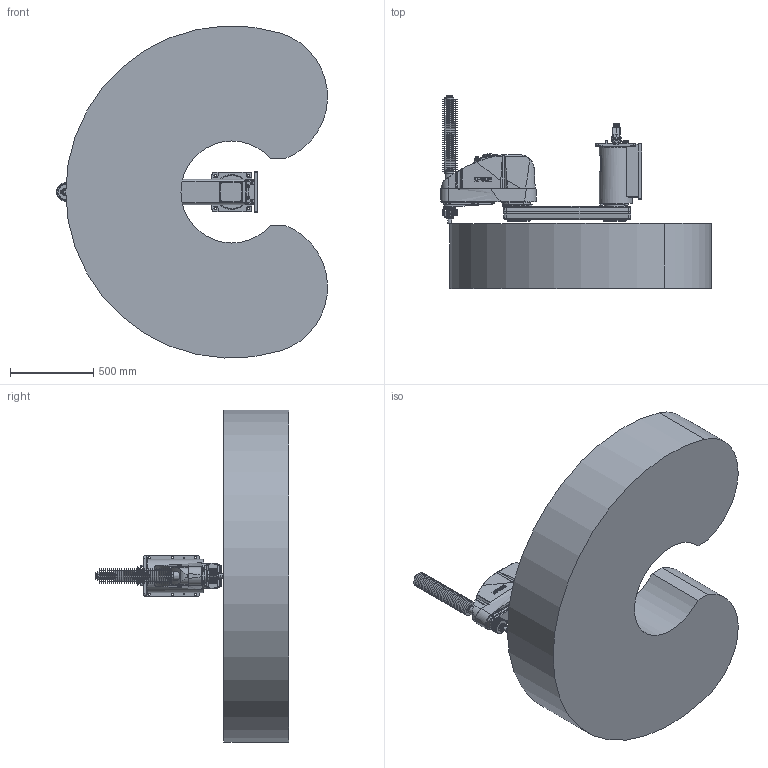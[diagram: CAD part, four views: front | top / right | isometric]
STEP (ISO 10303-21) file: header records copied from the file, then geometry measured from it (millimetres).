
FILE_DESCRIPTION( ( 'STEP AP214' ), '1' );
FILE_NAME( 'C:/Users/9607552/Desktop/GX20-BA04CW_straight.stp', '2023-08-01T09:48:25', ( '' ), ( '' ), ' ', 'PARTsolutions', ' ' );
FILE_SCHEMA( ( 'AUTOMOTIVE_DESIGN { 1 0 10303 214 1 1 1 1 }' ) );
Length unit declared in the file: millimetre
Products named in the file (7): GX20-BA04CWS-W; _Base cw; _Straight-B; _J1 Arm GX10-600 r/w; _J2 Arm GX10-c; _J3 Arm GX10-c (4); _GX10_20B-31_4
Assembly tree (6 placements, depth 2):
  GX20-BA04CWS-W
    _Base cw
    _Straight-B
    _J1 Arm GX10-600 r/w
    _J2 Arm GX10-c
    _J3 Arm GX10-c (4)
    _GX10_20B-31_4
Bounding box: 1630.39 x 1164 x 1998.16 mm (x, y, z)
Volume: 890536150.1 mm3; surface area: 9485374.6 mm2
Topology: 6 solids, 6 shells, 2612 faces, 6415 edges, 4146 vertices
Faces by surface type: plane 1310, cylinder 762, cone 432, torus 70, bspline 37, sphere 1
Full cylindrical faces by diameter (mm): 1.18 x55, 2.5 x2, 3 x32, 3.242 x10, 3.3 x9, 4 x2, 4.2 x2, 4.8 x4, 5.1 x4, 5.34 x4, 5.5 x12, 6 x4, 6.2 x2, 6.647 x2, 6.8 x2, 7 x19, 7.5 x1, 7.59 x4, 8 x4, 8.5 x2, 9 x4, 10 x32, 10.5 x3, 11 x14, 12 x7, 12.25 x1, 13 x8, 14 x20, 14.25 x1, 16 x7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
Entity records: 97956 total; most frequent: CARTESIAN_POINT 18140, DIRECTION 12242, ORIENTED_EDGE 11152, EDGE_CURVE 5576, AXIS2_PLACEMENT_3D 4714, VERTEX_POINT 4038, EDGE_LOOP 3719, FACE_OUTER_BOUND 2976
